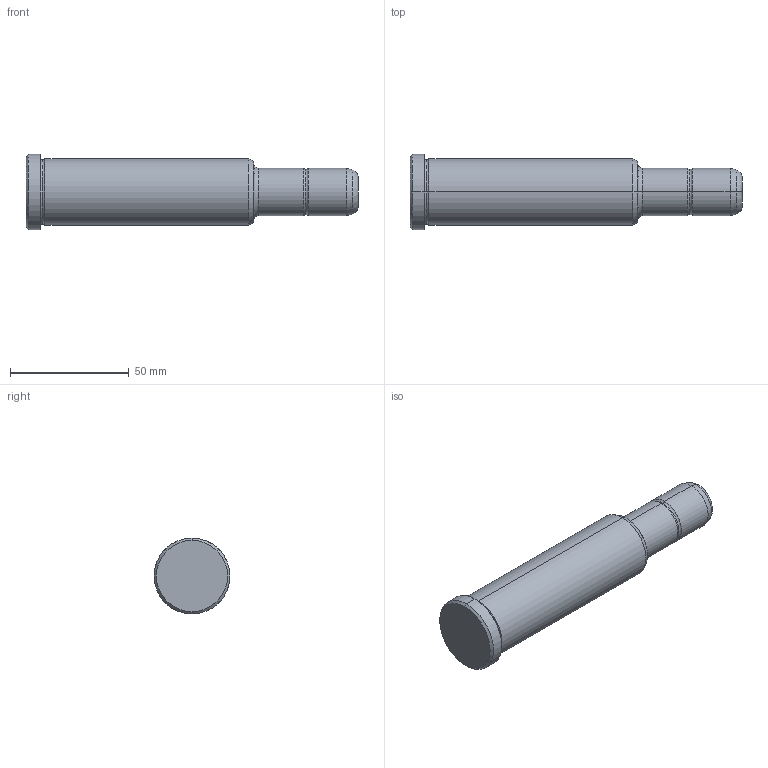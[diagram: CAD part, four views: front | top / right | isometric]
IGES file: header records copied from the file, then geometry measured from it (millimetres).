
Start section: START RECORD GO HERE.
Global section: file name: 351-20X96X140.igs; native system: DASSAULT SYSTEMES CATIA V5 R20 - www.3ds.com; preprocessor: CATIA Version 5 Release 20 ; author: Utente; organization: NB04-ASUS; date: 20210827.150411; units: millimetre
Bounding box: 140 x 32 x 32 mm (x, y, z)
Surface area: 12612 mm2 (no closed solid volume)
Topology: 0 solids, 0 shells, 30 faces, 172 edges, 172 vertices
Faces by surface type: revolution 26, plane 4
